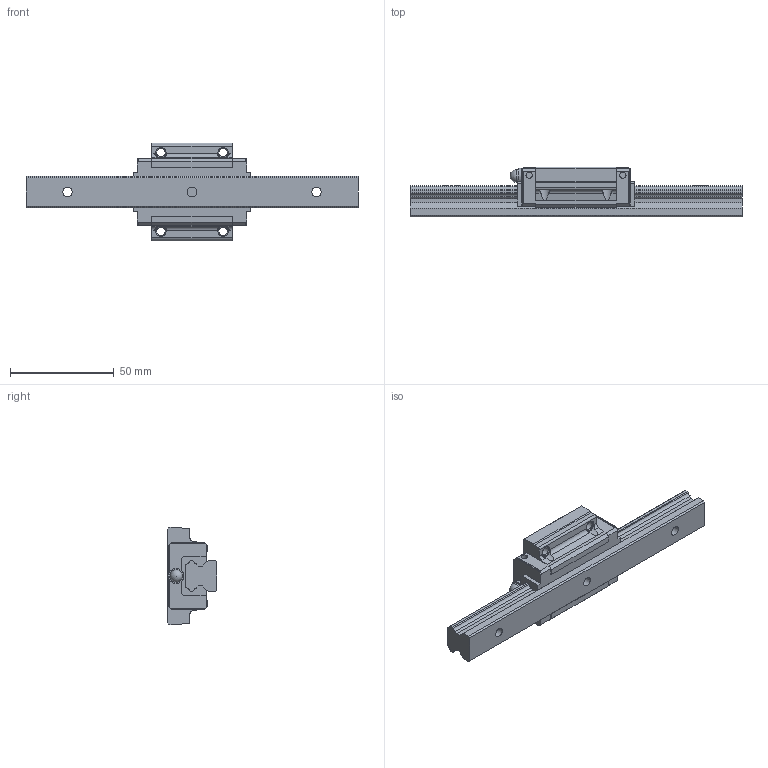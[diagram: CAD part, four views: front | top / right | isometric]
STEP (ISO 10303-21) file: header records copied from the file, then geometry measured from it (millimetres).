
FILE_DESCRIPTION(/* description */ ('STEP AP203'),/* implementation_level */ '2;1');
FILE_NAME(/* name */ 'HSR15M2A1SS-160L_G20_0_PB1021B_51-7_0_0_0',/* time_stamp */ '2024-05-23T08:55:38+02:00',/* author */ ('License CC BY-ND 4.0'),/* organization */ ('CADENAS'),/* preprocessor_version */ 'ST-DEVELOPER v19.3',/* originating_system */ 'PARTsolutions',/* authorisation */ ' ');
FILE_SCHEMA (('CONFIG_CONTROL_DESIGN'));
Length unit declared in the file: millimetre
Products named in the file (4): HSR15M2A1SS-160L_G20_0_PB1021B_51-7_0_0_0; HSR15M2A116020 Rail; HSR15M2ASSPB1021B Slider; hsr_ftht_PB1021B_grease_nipple_joint
Assembly tree (3 placements, depth 2):
  HSR15M2A1SS-160L_G20_0_PB1021B_51-7_0_0_0
    HSR15M2A116020 Rail
    HSR15M2ASSPB1021B Slider
    hsr_ftht_PB1021B_grease_nipple_joint
Bounding box: 160 x 24 x 47 mm (x, y, z)
Volume: 61028.5 mm3; surface area: 21113.1 mm2
Topology: 3 solids, 3 shells, 202 faces, 536 edges, 352 vertices
Faces by surface type: plane 146, cylinder 47, cone 8, sphere 1
Full cylindrical faces by diameter (mm): 3 x4, 4 x3, 4.134 x4, 4.5 x3, 5.1 x2, 6 x1, 7.5 x4
Entity records: 6187 total; most frequent: CARTESIAN_POINT 1092, ORIENTED_EDGE 1008, DIRECTION 1006, EDGE_CURVE 504, LINE 398, VECTOR 398, VERTEX_POINT 350, AXIS2_PLACEMENT_3D 304
